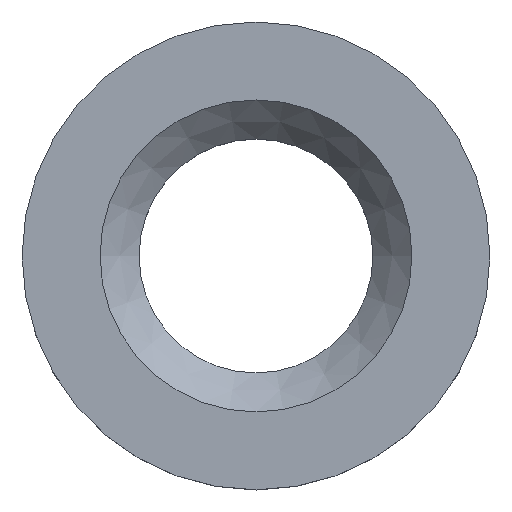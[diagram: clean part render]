
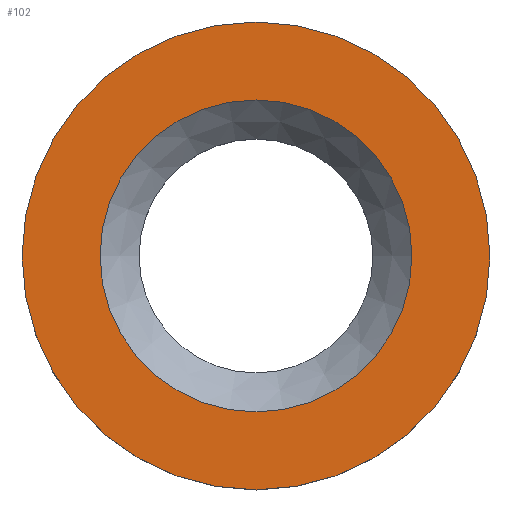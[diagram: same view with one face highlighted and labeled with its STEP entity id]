
A CAD part, top view. The second image highlights one B-rep face of the part: STEP entity #102.
In plain terms, the highlighted planar face has unit normal (0, 0, 1).
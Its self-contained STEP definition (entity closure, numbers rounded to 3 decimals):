
#16=FACE_BOUND('',#34,.T.);
#18=PLANE('',#136);
#26=FACE_OUTER_BOUND('',#33,.T.);
#33=EDGE_LOOP('',(#92,#93));
#34=EDGE_LOOP('',(#94));
#46=CIRCLE('',#128,3.);
#47=CIRCLE('',#129,3.);
#49=CIRCLE('',#133,2.);
#54=VERTEX_POINT('',#181);
#55=VERTEX_POINT('',#182);
#57=VERTEX_POINT('',#190);
#63=EDGE_CURVE('',#54,#55,#46,.T.);
#64=EDGE_CURVE('',#55,#54,#47,.T.);
#67=EDGE_CURVE('',#57,#57,#49,.T.);
#92=ORIENTED_EDGE('',*,*,#63,.T.);
#93=ORIENTED_EDGE('',*,*,#64,.T.);
#94=ORIENTED_EDGE('',*,*,#67,.F.);
#102=ADVANCED_FACE('',(#26,#16),#18,.T.);
#128=AXIS2_PLACEMENT_3D('',#183,#150,#151);
#129=AXIS2_PLACEMENT_3D('',#184,#152,#153);
#133=AXIS2_PLACEMENT_3D('',#191,#161,#162);
#136=AXIS2_PLACEMENT_3D('',#197,#169,#170);
#150=DIRECTION('center_axis',(0.,0.,1.));
#151=DIRECTION('ref_axis',(1.,0.,0.));
#152=DIRECTION('center_axis',(0.,0.,1.));
#153=DIRECTION('ref_axis',(1.,0.,0.));
#161=DIRECTION('center_axis',(0.,0.,1.));
#162=DIRECTION('ref_axis',(-1.,0.,0.));
#169=DIRECTION('center_axis',(0.,0.,1.));
#170=DIRECTION('ref_axis',(1.,0.,0.));
#181=CARTESIAN_POINT('',(3.,0.,1.5));
#182=CARTESIAN_POINT('',(-3.,0.,1.5));
#183=CARTESIAN_POINT('Origin',(0.,0.,1.5));
#184=CARTESIAN_POINT('Origin',(0.,0.,1.5));
#190=CARTESIAN_POINT('',(2.,0.,1.5));
#191=CARTESIAN_POINT('Origin',(0.,0.,1.5));
#197=CARTESIAN_POINT('Origin',(0.,0.,1.5));
